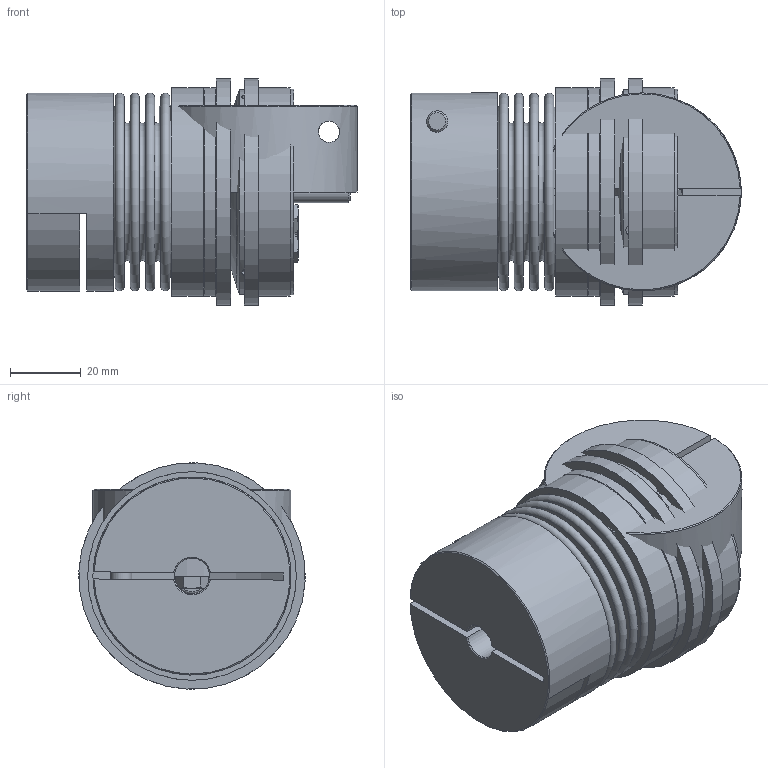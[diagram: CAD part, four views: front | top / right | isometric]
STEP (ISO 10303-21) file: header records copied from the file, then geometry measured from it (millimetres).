
FILE_DESCRIPTION( ( 'Unknown' ), '1' );
FILE_NAME( 'C:/Dokumente und Einstellungen/SKarpstein/Desktop/Korrigierte 3D Modelle/KBK-BKI-30-77-5.stp', 'Unknown', ( 'Unknown' ), ( 'Unknown' ), 'XStep 1.0', 'Unknown', ' ' );
FILE_SCHEMA( ( 'automotive_design' ) );
Length unit declared in the file: millimetre
Products named in the file (10): Assem1; Stellring 30; Druckring 30; KBK L-I-30 Grundkörper; Konusbuchse KBK L-I-30; din_en_24017_m5x16; Flansch BK30; KN30_Standard_2; Socket Head Cap Screw_DIN_DIN 912 M6 x 20 --- 20N_3; BK30_Standard_1
Bounding box: 93.45 x 64 x 64 mm (x, y, z)
Volume: 250438.9 mm3; surface area: 147106.8 mm2
Topology: 23 solids, 23 shells, 504 faces, 1062 edges, 679 vertices
Faces by surface type: plane 241, cylinder 114, cone 104, torus 45
Full cylindrical faces by diameter (mm): 3.242 x6, 4.134 x18, 5 x7, 5.5 x12, 6 x4, 6.4 x2, 6.88 x7, 10 x4, 11 x2, 12 x4, 23.9 x2, 24.4 x2, 25 x4, 34 x2, 37 x2, 38 x4, 39.5 x2, 40 x2, 46.5 x4, 47.3 x4, 52 x2, 56 x2, 58 x2, 59 x4, 64 x2
Entity records: 5602 total; most frequent: CARTESIAN_POINT 1316, DIRECTION 885, ORIENTED_EDGE 614, AXIS2_PLACEMENT_3D 403, EDGE_LOOP 352, EDGE_CURVE 307, FACE_OUTER_BOUND 263, VERTEX_POINT 246
